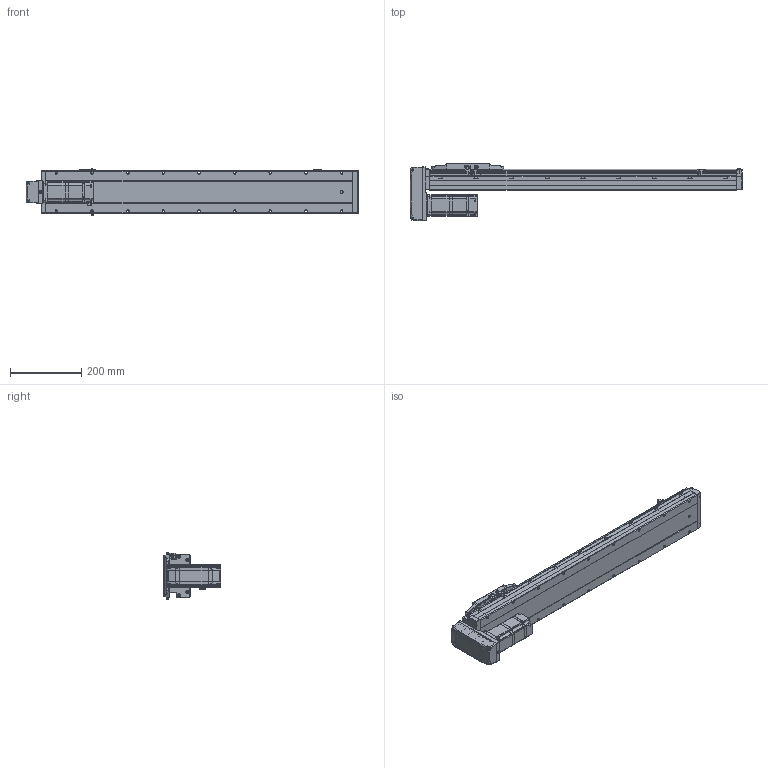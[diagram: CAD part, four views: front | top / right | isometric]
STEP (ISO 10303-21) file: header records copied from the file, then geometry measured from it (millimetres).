
FILE_DESCRIPTION (( 'STEP AP214' ), '1' );
FILE_NAME ('CTH12-L10-S650-BM-C40（简）.STEP', '2023-02-04T06:47:53', ( '' ), ( '' ), 'SwSTEP 2.0', 'SolidWorks 2018', '' );
FILE_SCHEMA (( 'AUTOMOTIVE_DESIGN' ));
Length unit declared in the file: millimetre
Products named in the file (25): CTH12_body_3; CTH8耜蚾蟀諉啣ㄗ潠ㄘ; BM-C40; 嫖萇羲壽郪磁1; PM-Y45; CTH12覜茼え; CTH12; CTH嫖萇羲壽假蚾啣; 蚐郲; CTH12底座-L861简（650行程）; 湮賑怢  裔赽-1(CTH12)賑怢; CTH12賑怢郪磁; CTH12-L10-S650-BM-C40（简）; 内六角圆柱头螺钉M3-1; 内六角圆柱头螺钉M5装饰螺钉; 嫖萇羲壽郪磁2; AC60_Valor predeterminado; 内六角圆柱头螺钉M3; CTH400W垫板（3个厚）; 内六角圆柱头螺钉M3-2; hex nuts, style 1-grades ab gb_GB_FASTENER_NUT_SNAB1 M3-N; CTH12賑怢ㄗ潠ㄘ; CTH12-BL_body_4; CTH400W假蚾啣; CTH12-BM-02
Assembly tree (45 placements, depth 4):
  CTH12-L10-S650-BM-C40（简）
    CTH12底座-L861简（650行程）
    蚐郲  x2
    CTH12_body_3
    CTH12-BL_body_4
    CTH12賑怢郪磁
      CTH12
        湮賑怢  裔赽-1(CTH12)賑怢
        CTH12賑怢ㄗ潠ㄘ
    CTH12覜茼え
    嫖萇羲壽郪磁1  x2
      CTH嫖萇羲壽假蚾啣
      PM-Y45
      内六角圆柱头螺钉M3-2
      内六角圆柱头螺钉M3-1
      hex nuts, style 1-grades ab gb_GB_FASTENER_NUT_SNAB1 M3-N
    嫖萇羲壽郪磁2
      CTH嫖萇羲壽假蚾啣
      PM-Y45
      内六角圆柱头螺钉M3-1  x2
      内六角圆柱头螺钉M3-2  x2
      hex nuts, style 1-grades ab gb_GB_FASTENER_NUT_SNAB1 M3-N  x2
    BM-C40
      CTH12-BM-02
      CTH8耜蚾蟀諉啣ㄗ潠ㄘ
    CTH400W垫板（3个厚）
    AC60_Valor predeterminado
    内六角圆柱头螺钉M3  x6
    内六角圆柱头螺钉M5装饰螺钉  x4
    CTH400W假蚾啣
Bounding box: 931.5 x 162.5 x 131.52 mm (x, y, z)
Volume: 6386720.6 mm3; surface area: 628250.8 mm2
Topology: 47 solids, 48 shells, 2796 faces, 7084 edges, 4507 vertices
Faces by surface type: plane 1502, cylinder 829, cone 303, bspline 110, torus 52
Entity records: 76929 total; most frequent: CARTESIAN_POINT 18173, ORIENTED_EDGE 11348, DIRECTION 11275, EDGE_CURVE 5674, AXIS2_PLACEMENT_3D 3835, VERTEX_POINT 3611, VECTOR 3605, LINE 3605
